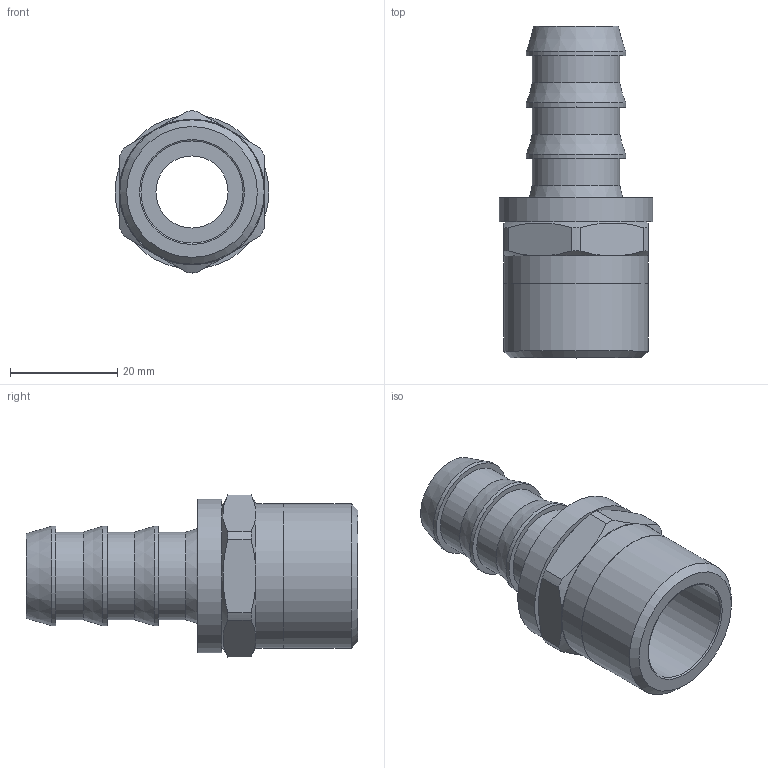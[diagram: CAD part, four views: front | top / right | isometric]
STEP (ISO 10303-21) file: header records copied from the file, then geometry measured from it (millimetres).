
FILE_DESCRIPTION(/* description */ (''),/* implementation_level */ '2;1');
FILE_NAME(/* name */ 'C:/Users/drich/Desktop/PLM-10-12 v1.step',/* time_stamp */ '2020-02-02T14:48:06-06:00',/* author */ (''),/* organization */ (''),/* preprocessor_version */ 'ST-DEVELOPER v18',/* originating_system */ 'Autodesk Translation Framework v8.12.0.6',/* authorisation */ '');
FILE_SCHEMA (('AUTOMOTIVE_DESIGN { 1 0 10303 214 3 1 1 }'));
Length unit declared in the file: inch
Products named in the file (3): PLM-10-12; -10 BARB ONLY; FW-13
Assembly tree (2 placements, depth 2):
  PLM-10-12
    -10 BARB ONLY
    FW-13
Bounding box: 28.7 x 61.9 x 30.22 mm (x, y, z)
Volume: 12373.8 mm3; surface area: 9838.8 mm2
Topology: 3 solids, 3 shells, 61 faces, 161 edges, 113 vertices
Faces by surface type: plane 25, cylinder 22, cone 13, torus 1
Full cylindrical faces by diameter (mm): 13.462 x1, 13.487 x1, 16.383 x3, 17.272 x1, 18.161 x1, 18.542 x4, 19.05 x1, 26.162 x1, 26.924 x1, 26.975 x1, 28.702 x1
Entity records: 2063 total; most frequent: CARTESIAN_POINT 376, DIRECTION 371, ORIENTED_EDGE 322, AXIS2_PLACEMENT_3D 162, EDGE_CURVE 161, VERTEX_POINT 113, CIRCLE 96, EDGE_LOOP 74
